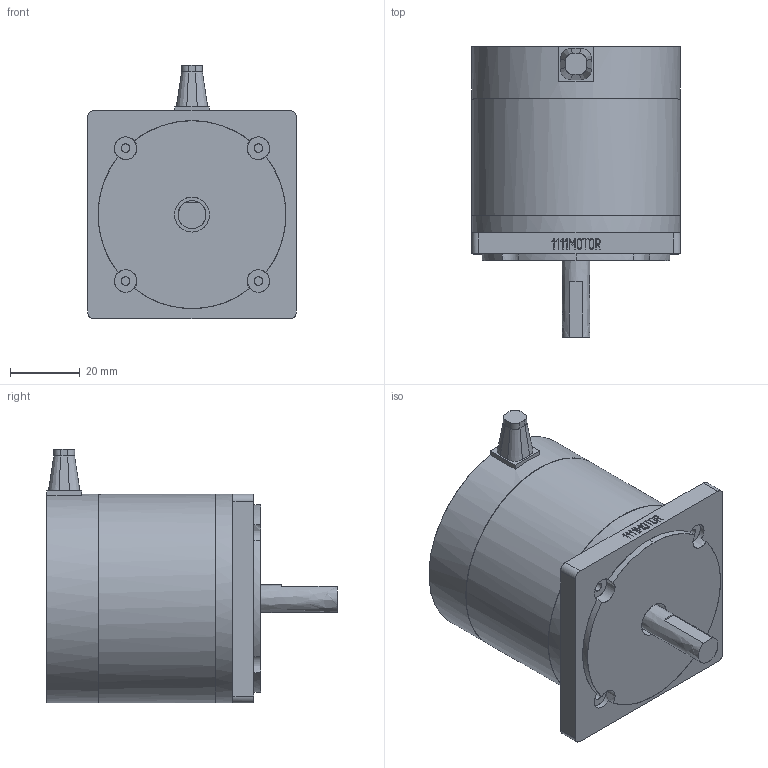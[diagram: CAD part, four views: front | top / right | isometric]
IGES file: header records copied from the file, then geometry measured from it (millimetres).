
Start section: C
Global section: file name: BL60S.igs; native system: By Siemens PLM Incorporated; preprocessor: XPlus GENERIC/IGES 17.0.49; author: Author; organization: Title; date: 20170219.124245; units: millimetre
Bounding box: 60 x 83.5 x 73 mm (x, y, z)
Surface area: 37489.6 mm2 (no closed solid volume)
Topology: 0 solids, 0 shells, 223 faces, 1432 edges, 1432 vertices
Faces by surface type: bspline 223
